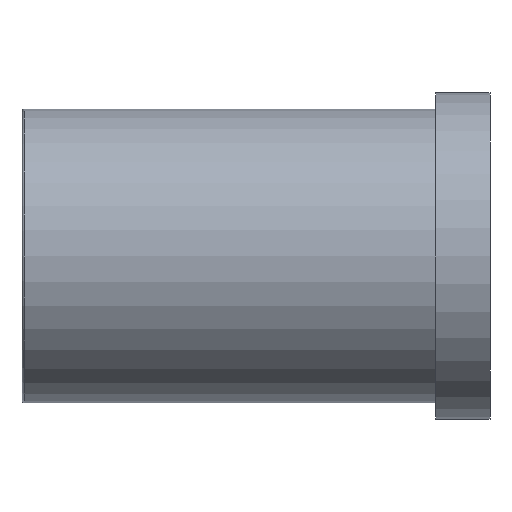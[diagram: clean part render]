
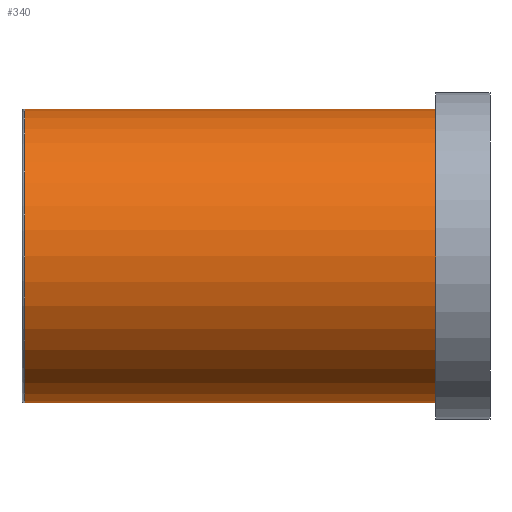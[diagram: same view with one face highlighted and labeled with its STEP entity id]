
A CAD part, left-side view. The second image highlights one B-rep face of the part: STEP entity #340.
In plain terms, the highlighted cylindrical face has radius 27 mm (diameter 54 mm), a partial arc.
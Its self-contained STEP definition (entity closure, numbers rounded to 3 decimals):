
#7 = VERTEX_POINT ( 'NONE', #199 ) ;
#31 = ORIENTED_EDGE ( 'NONE', *, *, #228, .F. ) ;
#33 = EDGE_CURVE ( 'NONE', #484, #147, #93, .T. ) ;
#71 = LINE ( 'NONE', #334, #507 ) ;
#93 = CIRCLE ( 'NONE', #342, 27. ) ;
#106 = EDGE_CURVE ( 'NONE', #7, #436, #471, .T. ) ;
#147 = VERTEX_POINT ( 'NONE', #375 ) ;
#153 = CARTESIAN_POINT ( 'NONE',  ( 0., 0., 0. ) ) ;
#156 = VECTOR ( 'NONE', #169, 1000. ) ;
#160 = LINE ( 'NONE', #343, #156 ) ;
#161 = EDGE_CURVE ( 'NONE', #436, #147, #71, .T. ) ;
#169 = DIRECTION ( 'NONE',  ( 0., -1., 0. ) ) ;
#174 = FACE_OUTER_BOUND ( 'NONE', #285, .T. ) ;
#185 = CARTESIAN_POINT ( 'NONE',  ( 0., 0., 0. ) ) ;
#197 = AXIS2_PLACEMENT_3D ( 'NONE', #541, #291, #369 ) ;
#199 = CARTESIAN_POINT ( 'NONE',  ( 0., 75.5, 27. ) ) ;
#228 = EDGE_CURVE ( 'NONE', #7, #484, #160, .T. ) ;
#285 = EDGE_LOOP ( 'NONE', ( #31, #310, #447, #337 ) ) ;
#291 = DIRECTION ( 'NONE',  ( 0., -1., 0. ) ) ;
#294 = DIRECTION ( 'NONE',  ( 0., -1., 0. ) ) ;
#309 = DIRECTION ( 'NONE',  ( 0., 0., -1. ) ) ;
#310 = ORIENTED_EDGE ( 'NONE', *, *, #106, .T. ) ;
#324 = AXIS2_PLACEMENT_3D ( 'NONE', #185, #441, #309 ) ;
#334 = CARTESIAN_POINT ( 'NONE',  ( 0., 0., -27. ) ) ;
#337 = ORIENTED_EDGE ( 'NONE', *, *, #33, .F. ) ;
#340 = ADVANCED_FACE ( 'NONE', ( #174 ), #513, .T. ) ;
#342 = AXIS2_PLACEMENT_3D ( 'NONE', #153, #452, #488 ) ;
#343 = CARTESIAN_POINT ( 'NONE',  ( 0., 0., 27. ) ) ;
#369 = DIRECTION ( 'NONE',  ( 0., 0., -1. ) ) ;
#375 = CARTESIAN_POINT ( 'NONE',  ( 0., 0., -27. ) ) ;
#436 = VERTEX_POINT ( 'NONE', #529 ) ;
#441 = DIRECTION ( 'NONE',  ( 0., -1., 0. ) ) ;
#447 = ORIENTED_EDGE ( 'NONE', *, *, #161, .T. ) ;
#452 = DIRECTION ( 'NONE',  ( 0., -1., 0. ) ) ;
#471 = CIRCLE ( 'NONE', #197, 27. ) ;
#484 = VERTEX_POINT ( 'NONE', #494 ) ;
#488 = DIRECTION ( 'NONE',  ( 0., 0., -1. ) ) ;
#494 = CARTESIAN_POINT ( 'NONE',  ( 0., 0., 27. ) ) ;
#507 = VECTOR ( 'NONE', #294, 1000. ) ;
#513 = CYLINDRICAL_SURFACE ( 'NONE', #324, 27. ) ;
#529 = CARTESIAN_POINT ( 'NONE',  ( 0., 75.5, -27. ) ) ;
#541 = CARTESIAN_POINT ( 'NONE',  ( 0., 75.5, 0. ) ) ;
